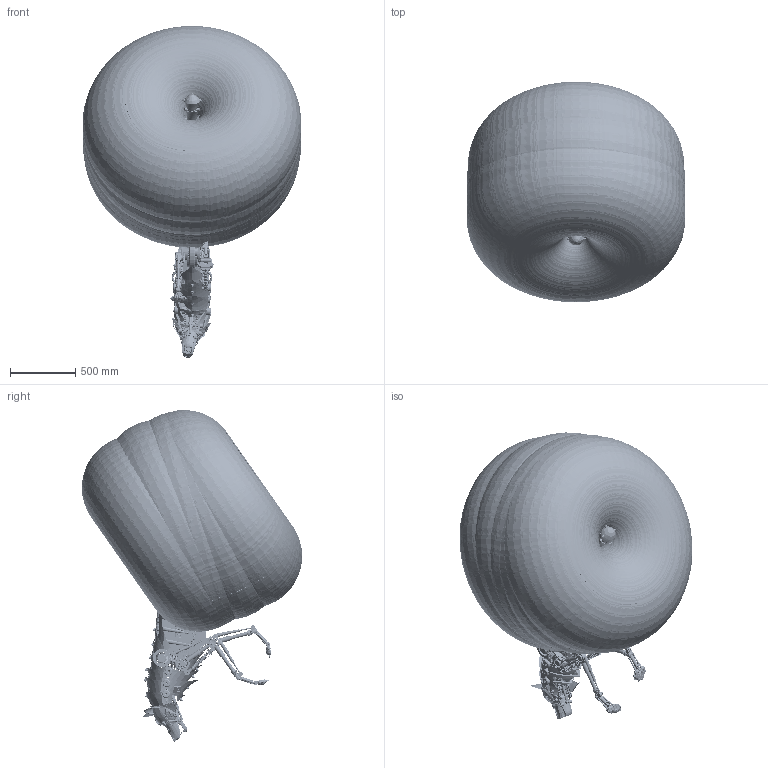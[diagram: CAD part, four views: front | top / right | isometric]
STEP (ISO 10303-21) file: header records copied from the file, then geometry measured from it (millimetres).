
FILE_DESCRIPTION( ( 'STEP AP214' ), '1' );
FILE_NAME( 'p:/temp/worker_140/temp/exporttempdir_5208_449_RvszZ/format_2/Wolf (F-0-5-0-90-20-30-40).stp', '2022-05-09T07:17:20', ( 'License CC BY-ND 4.0' ), ( 'CADENAS' ), ' ', 'PARTsolutions', ' ' );
FILE_SCHEMA( ( 'AUTOMOTIVE_DESIGN { 1 0 10303 214 1 1 1 1 }' ) );
Length unit declared in the file: millimetre
Products named in the file (90): Wolf (F-0-5-0-90-20-30-40); _Wolf leg10; _Wolf leg11; _Wolf leg12; _Wolf leg13; _Wolf foot; _Wolf foot 2; _Wolf foot 1; _Wolf rod; _Wolf 100 body; _Wolf 130 screw; _Wolf  washer; _Wolf  nut; _Wolf 150 body2; _Wolf  body3; _Wolf 130 rod; _Wolf rod nutl1; _Wolf CLAWS; _Wolf  rod2; _Wolf P-1_Base with cylinder; _Wolf P-3_Spring 1; _Wolf P-2_Piston; _Wolf P-5_Screw; _Wolf neck5; _Wolf neck6; _Wolf body1; _Wolf body2; _Wolf leg_back1; _sprocket big1; _wolf part6; _Wolf leg back2; _Wolf foot back; _Wolf foot 2 back; _Wolf 111 screw; _Wolf 131 body2; _Wolf 111 rod; _Sprocket 2; _Wolf 83 screw; _Wolf 103 body2; _Wolf 100 rod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
Assembly tree (325 placements, depth 2):
  Wolf (F-0-5-0-90-20-30-40)
    _Wolf leg10
    _Wolf leg11
    _Wolf leg12
    _Wolf leg13  x2
    _Wolf foot  x2
    _Wolf foot 2  x2
    _Wolf foot 1  x2
    _Wolf rod  x2
    _Wolf 100 body  x7
    _Wolf 130 screw  x8
    _Wolf  washer  x56
    _Wolf  nut  x56
    _Wolf 150 body2  x2
    _Wolf  body3  x7
    _Wolf 130 rod  x2
    _Wolf rod nutl1  x7
    _Wolf CLAWS  x7
    _Wolf  rod2  x7
    _Wolf P-1_Base with cylinder  x4
    _Wolf P-3_Spring 1  x4
    _Wolf P-2_Piston  x4
    _Wolf P-5_Screw  x4
    _Wolf neck5
    _Wolf neck6
    _Wolf body1
    _Wolf body2
    _Wolf leg_back1
    _sprocket big1  x4
    _wolf part6  x4
    _Wolf leg back2  x2
    _Wolf foot back  x2
    _Wolf foot 2 back  x2
    _Wolf 111 screw  x4
    _Wolf 131 body2
    _Wolf 111 rod
    _Sprocket 2  x4
    _Wolf 83 screw  x8
    _Wolf 103 body2  x2
    _Wolf 100 rod  x3
    _Wolf leg_back1right
    _Wolf 118 screw  x4
    _Wolf 138 body2
    _Wolf 118 rod
    _Wolf tail
    _Wolf tail 2
    _Wolf tail 3  x4
    _Wolf tail 4
    _Wolf tail 5
    _wolf part8
    _wolf chain
    _Sprocket midi 2
    _Wolf neck4
    _Wolf neck51
    _Wolf neck3
    _Wolf neck2
    _Wolf neck1
    _Wolf head F
    _Wolf head2
    _Wolf tooth2 (14)  x4
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Bounding box: 1682.37 x 1693.6 x 2552.22 mm (x, y, z)
Volume: 46198253.8 mm3; surface area: 181010641.1 mm2
Topology: 321 solids, 355 shells, 30351 faces, 77587 edges, 50174 vertices
Faces by surface type: plane 13872, cylinder 11977, cone 2345, torus 1758, bspline 304, sphere 95
Full cylindrical faces by diameter (mm): 0.5 x40, 0.959 x2, 1.1 x72, 1.181 x14, 1.2 x6, 1.373 x2, 1.6 x1, 1.8 x176, 2.1 x4, 2.756 x7, 3 x10, 3.15 x84, 3.307 x56, 3.6 x752, 3.937 x7, 4 x92, 4.134 x1, 4.9 x40, 5.4 x2, 5.6 x8, 6 x28, 6.3 x2, 6.35 x2, 7 x6, 7.62 x9, 7.7 x1, 7.723 x2, 7.874 x14, 8 x452, 8.566 x12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
Entity records: 646234 total; most frequent: CARTESIAN_POINT 151635, DIRECTION 77150, ORIENTED_EDGE 74338, EDGE_CURVE 37169, AXIS2_PLACEMENT_3D 30947, VERTEX_POINT 25582, EDGE_LOOP 19812, FACE_OUTER_BOUND 17308
